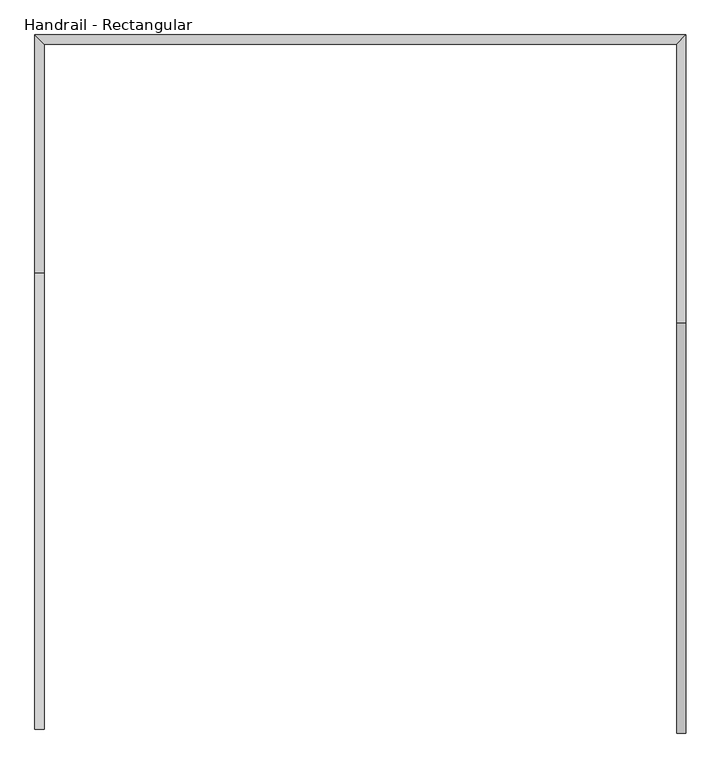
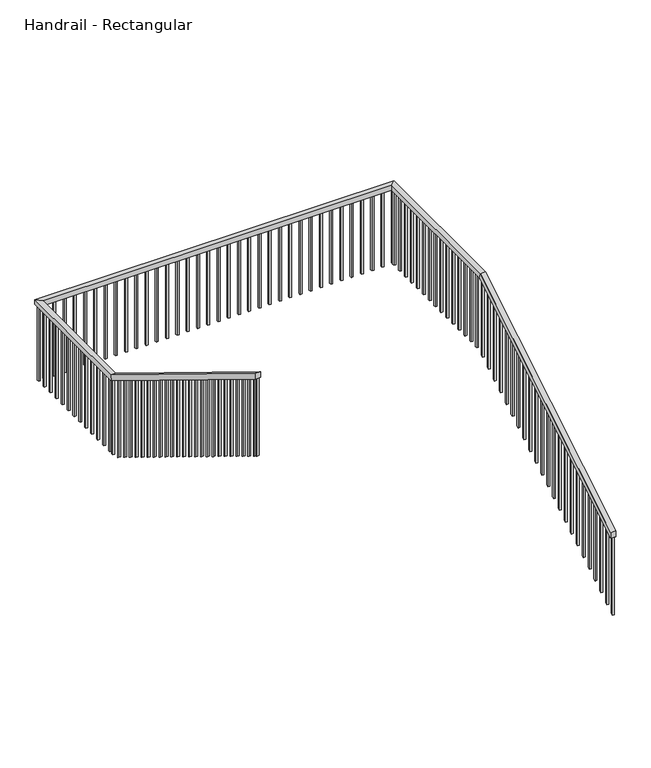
"""IFC4 building model written with IfcOpenShell, lengths in millimetres: railing geometry, Handrail - Rectangular."""

from ifc_helpers import new_model, si_unit, frame, origin, place, context, project, spatial, polyline, outline, extrude, faceted_brep, source, transform, mapped, element, save


def handrail_rectangular_93b09134(model_context):
    return source(origin(), model_context, "Body", "SolidModel", [
        faceted_brep([(1145.8499602, 6559.8588201, 4131.7333333), (1095.0499602, 6559.8588201, 4131.7333333), (1095.0499602, 6559.8588201, 4072.3318731), (1145.8499602, 6559.8588201, 4072.3318731), (1145.8499602, 8795.0588201, 5486.4), (1095.0499602, 8795.0588201, 5486.4), (1095.0499602, 8809.2512295, 5435.6), (1145.8499602, 8809.2512295, 5435.6), (1145.8499602, 10369.8588201, 5486.4), (1095.0499602, 10319.0588201, 5486.4), (1095.0499602, 10319.0588201, 5435.6), (1145.8499602, 10369.8588201, 5435.6), (-2410.1500398, 10369.8588201, 5486.4), (-2359.3500398, 10319.0588201, 5486.4), (-2359.3500398, 10319.0588201, 5435.6), (-2410.1500398, 10369.8588201, 5435.6), (-2410.1500398, 9071.4236171, 5486.4), (-2359.3500398, 9071.4236171, 5486.4), (-2359.3500398, 9057.0982111, 5435.6), (-2410.1500398, 9057.0982111, 5435.6), (-2410.1500398, 6581.1052413, 7012.2597197), (-2410.1500398, 6581.1052413, 6952.6823038), (-2359.3500398, 6581.1052413, 6952.6823038), (-2359.3500398, 6581.1052413, 7012.2597197)], [[[0, 1, 2, 3]], [[1, 0, 4, 5]], [[2, 1, 5, 6]], [[3, 2, 6, 7]], [[0, 3, 7, 4]], [[5, 4, 8, 9]], [[6, 5, 9, 10]], [[7, 6, 10, 11]], [[4, 7, 11, 8]], [[9, 8, 12, 13]], [[10, 9, 13, 14]], [[11, 10, 14, 15]], [[8, 11, 15, 12]], [[13, 12, 16, 17]], [[14, 13, 17, 18]], [[15, 14, 18, 19]], [[12, 15, 19, 16]], [[20, 21, 22, 23]], [[17, 16, 20, 23]], [[18, 17, 23, 22]], [[19, 18, 22, 21]], [[16, 19, 21, 20]]]),
        extrude(outline(polyline([(6623.4986171, 6926.7071735), (6642.5486171, 6915.0349199), (6642.5486171, 6103.6179715), (6623.4986171, 6115.2902251), (6623.4986171, 6926.7071735)])), frame((-2394.2750398, 0.0, 0.0), z_axis=(1.0, 0.0, 0.0), x_axis=(0.0, 1.0, 0.0)), (0.0, 0.0, 1.0), 19.05),
        extrude(outline(polyline([(6725.0986171, 6864.4551542), (6744.1486171, 6852.7829006), (6744.1486171, 6041.3659522), (6725.0986171, 6053.0382058), (6725.0986171, 6864.4551542)])), frame((-2394.2750398, 0.0, 0.0), z_axis=(1.0, 0.0, 0.0), x_axis=(0.0, 1.0, 0.0)), (0.0, 0.0, 1.0), 19.05),
        extrude(outline(polyline([(6826.6986171, 6802.2031349), (6845.7486171, 6790.5308813), (6845.7486171, 5979.1139329), (6826.6986171, 5990.7861866), (6826.6986171, 6802.2031349)])), frame((-2394.2750398, 0.0, 0.0), z_axis=(1.0, 0.0, 0.0), x_axis=(0.0, 1.0, 0.0)), (0.0, 0.0, 1.0), 19.05),
        extrude(outline(polyline([(6928.2986171, 6739.9511157), (6947.3486171, 6728.2788621), (6947.3486171, 5916.8619137), (6928.2986171, 5928.5341673), (6928.2986171, 6739.9511157)])), frame((-2394.2750398, 0.0, 0.0), z_axis=(1.0, 0.0, 0.0), x_axis=(0.0, 1.0, 0.0)), (0.0, 0.0, 1.0), 19.05),
        extrude(outline(polyline([(7029.8986171, 6677.6990964), (7048.9486171, 6666.0268428), (7048.9486171, 5854.6098944), (7029.8986171, 5866.282148), (7029.8986171, 6677.6990964)])), frame((-2394.2750398, 0.0, 0.0), z_axis=(1.0, 0.0, 0.0), x_axis=(0.0, 1.0, 0.0)), (0.0, 0.0, 1.0), 19.05),
        extrude(outline(polyline([(7131.4986171, 6615.4470771), (7150.5486171, 6603.7748235), (7150.5486171, 5792.3578751), (7131.4986171, 5804.0301287), (7131.4986171, 6615.4470771)])), frame((-2394.2750398, 0.0, 0.0), z_axis=(1.0, 0.0, 0.0), x_axis=(0.0, 1.0, 0.0)), (0.0, 0.0, 1.0), 19.05),
        extrude(outline(polyline([(7233.0986171, 6553.1950579), (7252.1486171, 6541.5228042), (7252.1486171, 5730.1058559), (7233.0986171, 5741.7781095), (7233.0986171, 6553.1950579)])), frame((-2394.2750398, 0.0, 0.0), z_axis=(1.0, 0.0, 0.0), x_axis=(0.0, 1.0, 0.0)), (0.0, 0.0, 1.0), 19.05),
        extrude(outline(polyline([(7334.6986171, 6490.9430386), (7353.7486171, 6479.270785), (7353.7486171, 5667.8538366), (7334.6986171, 5679.5260902), (7334.6986171, 6490.9430386)])), frame((-2394.2750398, 0.0, 0.0), z_axis=(1.0, 0.0, 0.0), x_axis=(0.0, 1.0, 0.0)), (0.0, 0.0, 1.0), 19.05),
        extrude(outline(polyline([(7436.2986171, 6428.6910193), (7455.3486171, 6417.0187657), (7455.3486171, 5605.6018173), (7436.2986171, 5617.2740709), (7436.2986171, 6428.6910193)])), frame((-2394.2750398, 0.0, 0.0), z_axis=(1.0, 0.0, 0.0), x_axis=(0.0, 1.0, 0.0)), (0.0, 0.0, 1.0), 19.05),
        extrude(outline(polyline([(7537.8986171, 6366.439), (7556.9486171, 6354.7667464), (7556.9486171, 5543.349798), (7537.8986171, 5555.0220517), (7537.8986171, 6366.439)])), frame((-2394.2750398, 0.0, 0.0), z_axis=(1.0, 0.0, 0.0), x_axis=(0.0, 1.0, 0.0)), (0.0, 0.0, 1.0), 19.05),
        extrude(outline(polyline([(7639.4986171, 6304.1869808), (7658.5486171, 6292.5147272), (7658.5486171, 5481.0977788), (7639.4986171, 5492.7700324), (7639.4986171, 6304.1869808)])), frame((-2394.2750398, 0.0, 0.0), z_axis=(1.0, 0.0, 0.0), x_axis=(0.0, 1.0, 0.0)), (0.0, 0.0, 1.0), 19.05),
        extrude(outline(polyline([(7741.0986171, 6241.9349615), (7760.1486171, 6230.2627079), (7760.1486171, 5418.8457595), (7741.0986171, 5430.5180131), (7741.0986171, 6241.9349615)])), frame((-2394.2750398, 0.0, 0.0), z_axis=(1.0, 0.0, 0.0), x_axis=(0.0, 1.0, 0.0)), (0.0, 0.0, 1.0), 19.05),
        extrude(outline(polyline([(7842.6986171, 6179.6829422), (7861.7486171, 6168.0106886), (7861.7486171, 5356.5937402), (7842.6986171, 5368.2659938), (7842.6986171, 6179.6829422)])), frame((-2394.2750398, 0.0, 0.0), z_axis=(1.0, 0.0, 0.0), x_axis=(0.0, 1.0, 0.0)), (0.0, 0.0, 1.0), 19.05),
        extrude(outline(polyline([(7944.2986171, 6117.430923), (7963.3486171, 6105.7586694), (7963.3486171, 5294.341721), (7944.2986171, 5306.0139746), (7944.2986171, 6117.430923)])), frame((-2394.2750398, 0.0, 0.0), z_axis=(1.0, 0.0, 0.0), x_axis=(0.0, 1.0, 0.0)), (0.0, 0.0, 1.0), 19.05),
        extrude(outline(polyline([(8045.8986171, 6055.1789037), (8064.9486171, 6043.5066501), (8064.9486171, 5232.0897017), (8045.8986171, 5243.7619553), (8045.8986171, 6055.1789037)])), frame((-2394.2750398, 0.0, 0.0), z_axis=(1.0, 0.0, 0.0), x_axis=(0.0, 1.0, 0.0)), (0.0, 0.0, 1.0), 19.05),
        extrude(outline(polyline([(8147.4986171, 5992.9268844), (8166.5486171, 5981.2546308), (8166.5486171, 5169.8376824), (8147.4986171, 5181.509936), (8147.4986171, 5992.9268844)])), frame((-2394.2750398, 0.0, 0.0), z_axis=(1.0, 0.0, 0.0), x_axis=(0.0, 1.0, 0.0)), (0.0, 0.0, 1.0), 19.05),
        extrude(outline(polyline([(8249.0986171, 5930.6748652), (8268.1486171, 5919.0026115), (8268.1486171, 5107.5856632), (8249.0986171, 5119.2579168), (8249.0986171, 5930.6748652)])), frame((-2394.2750398, 0.0, 0.0), z_axis=(1.0, 0.0, 0.0), x_axis=(0.0, 1.0, 0.0)), (0.0, 0.0, 1.0), 19.05),
        extrude(outline(polyline([(8350.6986171, 5868.4228459), (8369.7486171, 5856.7505923), (8369.7486171, 5045.3336439), (8350.6986171, 5057.0058975), (8350.6986171, 5868.4228459)])), frame((-2394.2750398, 0.0, 0.0), z_axis=(1.0, 0.0, 0.0), x_axis=(0.0, 1.0, 0.0)), (0.0, 0.0, 1.0), 19.05),
        extrude(outline(polyline([(8452.2986171, 5806.1708266), (8471.3486171, 5794.498573), (8471.3486171, 4983.0816246), (8452.2986171, 4994.7538782), (8452.2986171, 5806.1708266)])), frame((-2394.2750398, 0.0, 0.0), z_axis=(1.0, 0.0, 0.0), x_axis=(0.0, 1.0, 0.0)), (0.0, 0.0, 1.0), 19.05),
        extrude(outline(polyline([(8553.8986171, 5743.9188073), (8572.9486171, 5732.2465537), (8572.9486171, 4920.8296053), (8553.8986171, 4932.501859), (8553.8986171, 5743.9188073)])), frame((-2394.2750398, 0.0, 0.0), z_axis=(1.0, 0.0, 0.0), x_axis=(0.0, 1.0, 0.0)), (0.0, 0.0, 1.0), 19.05),
        extrude(outline(polyline([(8655.4986171, 5681.6667881), (8674.5486171, 5669.9945345), (8674.5486171, 4858.5775861), (8655.4986171, 4870.2498397), (8655.4986171, 5681.6667881)])), frame((-2394.2750398, 0.0, 0.0), z_axis=(1.0, 0.0, 0.0), x_axis=(0.0, 1.0, 0.0)), (0.0, 0.0, 1.0), 19.05),
        extrude(outline(polyline([(8757.0986171, 5619.4147688), (8776.1486171, 5607.7425152), (8776.1486171, 4796.3255668), (8757.0986171, 4807.9978204), (8757.0986171, 5619.4147688)])), frame((-2394.2750398, 0.0, 0.0), z_axis=(1.0, 0.0, 0.0), x_axis=(0.0, 1.0, 0.0)), (0.0, 0.0, 1.0), 19.05),
        extrude(outline(polyline([(8858.6986171, 5557.1627495), (8877.7486171, 5545.4904959), (8877.7486171, 4734.0735475), (8858.6986171, 4745.7458011), (8858.6986171, 5557.1627495)])), frame((-2394.2750398, 0.0, 0.0), z_axis=(1.0, 0.0, 0.0), x_axis=(0.0, 1.0, 0.0)), (0.0, 0.0, 1.0), 19.05),
        extrude(outline(polyline([(8960.2986171, 5494.9107303), (8979.3486171, 5483.2384766), (8979.3486171, 4671.8215283), (8960.2986171, 4683.4937819), (8960.2986171, 5494.9107303)])), frame((-2394.2750398, 0.0, 0.0), z_axis=(1.0, 0.0, 0.0), x_axis=(0.0, 1.0, 0.0)), (0.0, 0.0, 1.0), 19.05),
        extrude(outline(polyline([(-2394.2750398, 9134.7838201), (-2375.2250398, 9134.7838201), (-2375.2250398, 9115.7338201), (-2394.2750398, 9115.7338201), (-2394.2750398, 9134.7838201)])), frame((0.0, 0.0, 4648.2), z_axis=(0.0, 0.0, 1.0), x_axis=(1.0, 0.0, 0.0)), (0.0, 0.0, 1.0), 787.4),
        extrude(outline(polyline([(-2394.2750398, 9236.3838201), (-2375.2250398, 9236.3838201), (-2375.2250398, 9217.3338201), (-2394.2750398, 9217.3338201), (-2394.2750398, 9236.3838201)])), frame((0.0, 0.0, 4648.2), z_axis=(0.0, 0.0, 1.0), x_axis=(1.0, 0.0, 0.0)), (0.0, 0.0, 1.0), 787.4),
        extrude(outline(polyline([(-2394.2750398, 9337.9838201), (-2375.2250398, 9337.9838201), (-2375.2250398, 9318.9338201), (-2394.2750398, 9318.9338201), (-2394.2750398, 9337.9838201)])), frame((0.0, 0.0, 4648.2), z_axis=(0.0, 0.0, 1.0), x_axis=(1.0, 0.0, 0.0)), (0.0, 0.0, 1.0), 787.4),
        extrude(outline(polyline([(-2394.2750398, 9439.5838201), (-2375.2250398, 9439.5838201), (-2375.2250398, 9420.5338201), (-2394.2750398, 9420.5338201), (-2394.2750398, 9439.5838201)])), frame((0.0, 0.0, 4648.2), z_axis=(0.0, 0.0, 1.0), x_axis=(1.0, 0.0, 0.0)), (0.0, 0.0, 1.0), 787.4),
        extrude(outline(polyline([(-2394.2750398, 9541.1838201), (-2375.2250398, 9541.1838201), (-2375.2250398, 9522.1338201), (-2394.2750398, 9522.1338201), (-2394.2750398, 9541.1838201)])), frame((0.0, 0.0, 4648.2), z_axis=(0.0, 0.0, 1.0), x_axis=(1.0, 0.0, 0.0)), (0.0, 0.0, 1.0), 787.4),
        extrude(outline(polyline([(-2394.2750398, 9642.7838201), (-2375.2250398, 9642.7838201), (-2375.2250398, 9623.7338201), (-2394.2750398, 9623.7338201), (-2394.2750398, 9642.7838201)])), frame((0.0, 0.0, 4648.2), z_axis=(0.0, 0.0, 1.0), x_axis=(1.0, 0.0, 0.0)), (0.0, 0.0, 1.0), 787.4),
        extrude(outline(polyline([(-2394.2750398, 9744.3838201), (-2375.2250398, 9744.3838201), (-2375.2250398, 9725.3338201), (-2394.2750398, 9725.3338201), (-2394.2750398, 9744.3838201)])), frame((0.0, 0.0, 4648.2), z_axis=(0.0, 0.0, 1.0), x_axis=(1.0, 0.0, 0.0)), (0.0, 0.0, 1.0), 787.4),
        extrude(outline(polyline([(-2394.2750398, 9845.9838201), (-2375.2250398, 9845.9838201), (-2375.2250398, 9826.9338201), (-2394.2750398, 9826.9338201), (-2394.2750398, 9845.9838201)])), frame((0.0, 0.0, 4648.2), z_axis=(0.0, 0.0, 1.0), x_axis=(1.0, 0.0, 0.0)), (0.0, 0.0, 1.0), 787.4),
        extrude(outline(polyline([(-2394.2750398, 9947.5838201), (-2375.2250398, 9947.5838201), (-2375.2250398, 9928.5338201), (-2394.2750398, 9928.5338201), (-2394.2750398, 9947.5838201)])), frame((0.0, 0.0, 4648.2), z_axis=(0.0, 0.0, 1.0), x_axis=(1.0, 0.0, 0.0)), (0.0, 0.0, 1.0), 787.4),
        extrude(outline(polyline([(-2394.2750398, 10049.1838201), (-2375.2250398, 10049.1838201), (-2375.2250398, 10030.1338201), (-2394.2750398, 10030.1338201), (-2394.2750398, 10049.1838201)])), frame((0.0, 0.0, 4648.2), z_axis=(0.0, 0.0, 1.0), x_axis=(1.0, 0.0, 0.0)), (0.0, 0.0, 1.0), 787.4),
        extrude(outline(polyline([(-2394.2750398, 10150.7838201), (-2375.2250398, 10150.7838201), (-2375.2250398, 10131.7338201), (-2394.2750398, 10131.7338201), (-2394.2750398, 10150.7838201)])), frame((0.0, 0.0, 4648.2), z_axis=(0.0, 0.0, 1.0), x_axis=(1.0, 0.0, 0.0)), (0.0, 0.0, 1.0), 787.4),
        extrude(outline(polyline([(-2394.2750398, 10252.3838201), (-2375.2250398, 10252.3838201), (-2375.2250398, 10233.3338201), (-2394.2750398, 10233.3338201), (-2394.2750398, 10252.3838201)])), frame((0.0, 0.0, 4648.2), z_axis=(0.0, 0.0, 1.0), x_axis=(1.0, 0.0, 0.0)), (0.0, 0.0, 1.0), 787.4),
        extrude(outline(polyline([(-2324.4250398, 10353.9838201), (-2324.4250398, 10334.9338201), (-2343.4750398, 10334.9338201), (-2343.4750398, 10353.9838201), (-2324.4250398, 10353.9838201)])), frame((0.0, 0.0, 4648.2), z_axis=(0.0, 0.0, 1.0), x_axis=(1.0, 0.0, 0.0)), (0.0, 0.0, 1.0), 787.4),
        extrude(outline(polyline([(-2222.8250398, 10353.9838201), (-2222.8250398, 10334.9338201), (-2241.8750398, 10334.9338201), (-2241.8750398, 10353.9838201), (-2222.8250398, 10353.9838201)])), frame((0.0, 0.0, 4648.2), z_axis=(0.0, 0.0, 1.0), x_axis=(1.0, 0.0, 0.0)), (0.0, 0.0, 1.0), 787.4),
        extrude(outline(polyline([(-2121.2250398, 10353.9838201), (-2121.2250398, 10334.9338201), (-2140.2750398, 10334.9338201), (-2140.2750398, 10353.9838201), (-2121.2250398, 10353.9838201)])), frame((0.0, 0.0, 4648.2), z_axis=(0.0, 0.0, 1.0), x_axis=(1.0, 0.0, 0.0)), (0.0, 0.0, 1.0), 787.4),
        extrude(outline(polyline([(-2019.6250398, 10353.9838201), (-2019.6250398, 10334.9338201), (-2038.6750398, 10334.9338201), (-2038.6750398, 10353.9838201), (-2019.6250398, 10353.9838201)])), frame((0.0, 0.0, 4648.2), z_axis=(0.0, 0.0, 1.0), x_axis=(1.0, 0.0, 0.0)), (0.0, 0.0, 1.0), 787.4),
        extrude(outline(polyline([(-1918.0250398, 10353.9838201), (-1918.0250398, 10334.9338201), (-1937.0750398, 10334.9338201), (-1937.0750398, 10353.9838201), (-1918.0250398, 10353.9838201)])), frame((0.0, 0.0, 4648.2), z_axis=(0.0, 0.0, 1.0), x_axis=(1.0, 0.0, 0.0)), (0.0, 0.0, 1.0), 787.4),
        extrude(outline(polyline([(-1816.4250398, 10353.9838201), (-1816.4250398, 10334.9338201), (-1835.4750398, 10334.9338201), (-1835.4750398, 10353.9838201), (-1816.4250398, 10353.9838201)])), frame((0.0, 0.0, 4648.2), z_axis=(0.0, 0.0, 1.0), x_axis=(1.0, 0.0, 0.0)), (0.0, 0.0, 1.0), 787.4),
        extrude(outline(polyline([(-1714.8250398, 10353.9838201), (-1714.8250398, 10334.9338201), (-1733.8750398, 10334.9338201), (-1733.8750398, 10353.9838201), (-1714.8250398, 10353.9838201)])), frame((0.0, 0.0, 4648.2), z_axis=(0.0, 0.0, 1.0), x_axis=(1.0, 0.0, 0.0)), (0.0, 0.0, 1.0), 787.4),
        extrude(outline(polyline([(-1613.2250398, 10353.9838201), (-1613.2250398, 10334.9338201), (-1632.2750398, 10334.9338201), (-1632.2750398, 10353.9838201), (-1613.2250398, 10353.9838201)])), frame((0.0, 0.0, 4648.2), z_axis=(0.0, 0.0, 1.0), x_axis=(1.0, 0.0, 0.0)), (0.0, 0.0, 1.0), 787.4),
        extrude(outline(polyline([(-1511.6250398, 10353.9838201), (-1511.6250398, 10334.9338201), (-1530.6750398, 10334.9338201), (-1530.6750398, 10353.9838201), (-1511.6250398, 10353.9838201)])), frame((0.0, 0.0, 4648.2), z_axis=(0.0, 0.0, 1.0), x_axis=(1.0, 0.0, 0.0)), (0.0, 0.0, 1.0), 787.4),
        extrude(outline(polyline([(-1410.0250398, 10353.9838201), (-1410.0250398, 10334.9338201), (-1429.0750398, 10334.9338201), (-1429.0750398, 10353.9838201), (-1410.0250398, 10353.9838201)])), frame((0.0, 0.0, 4648.2), z_axis=(0.0, 0.0, 1.0), x_axis=(1.0, 0.0, 0.0)), (0.0, 0.0, 1.0), 787.4),
        extrude(outline(polyline([(-1308.4250398, 10353.9838201), (-1308.4250398, 10334.9338201), (-1327.4750398, 10334.9338201), (-1327.4750398, 10353.9838201), (-1308.4250398, 10353.9838201)])), frame((0.0, 0.0, 4648.2), z_axis=(0.0, 0.0, 1.0), x_axis=(1.0, 0.0, 0.0)), (0.0, 0.0, 1.0), 787.4),
        extrude(outline(polyline([(-1206.8250398, 10353.9838201), (-1206.8250398, 10334.9338201), (-1225.8750398, 10334.9338201), (-1225.8750398, 10353.9838201), (-1206.8250398, 10353.9838201)])), frame((0.0, 0.0, 4648.2), z_axis=(0.0, 0.0, 1.0), x_axis=(1.0, 0.0, 0.0)), (0.0, 0.0, 1.0), 787.4),
        extrude(outline(polyline([(-1105.2250398, 10353.9838201), (-1105.2250398, 10334.9338201), (-1124.2750398, 10334.9338201), (-1124.2750398, 10353.9838201), (-1105.2250398, 10353.9838201)])), frame((0.0, 0.0, 4648.2), z_axis=(0.0, 0.0, 1.0), x_axis=(1.0, 0.0, 0.0)), (0.0, 0.0, 1.0), 787.4),
        extrude(outline(polyline([(-1003.6250398, 10353.9838201), (-1003.6250398, 10334.9338201), (-1022.6750398, 10334.9338201), (-1022.6750398, 10353.9838201), (-1003.6250398, 10353.9838201)])), frame((0.0, 0.0, 4648.2), z_axis=(0.0, 0.0, 1.0), x_axis=(1.0, 0.0, 0.0)), (0.0, 0.0, 1.0), 787.4),
        extrude(outline(polyline([(-902.0250398, 10353.9838201), (-902.0250398, 10334.9338201), (-921.0750398, 10334.9338201), (-921.0750398, 10353.9838201), (-902.0250398, 10353.9838201)])), frame((0.0, 0.0, 4648.2), z_axis=(0.0, 0.0, 1.0), x_axis=(1.0, 0.0, 0.0)), (0.0, 0.0, 1.0), 787.4),
        extrude(outline(polyline([(-800.4250398, 10353.9838201), (-800.4250398, 10334.9338201), (-819.4750398, 10334.9338201), (-819.4750398, 10353.9838201), (-800.4250398, 10353.9838201)])), frame((0.0, 0.0, 4648.2), z_axis=(0.0, 0.0, 1.0), x_axis=(1.0, 0.0, 0.0)), (0.0, 0.0, 1.0), 787.4),
        extrude(outline(polyline([(-698.8250398, 10353.9838201), (-698.8250398, 10334.9338201), (-717.8750398, 10334.9338201), (-717.8750398, 10353.9838201), (-698.8250398, 10353.9838201)])), frame((0.0, 0.0, 4648.2), z_axis=(0.0, 0.0, 1.0), x_axis=(1.0, 0.0, 0.0)), (0.0, 0.0, 1.0), 787.4),
        extrude(outline(polyline([(-597.2250398, 10353.9838201), (-597.2250398, 10334.9338201), (-616.2750398, 10334.9338201), (-616.2750398, 10353.9838201), (-597.2250398, 10353.9838201)])), frame((0.0, 0.0, 4648.2), z_axis=(0.0, 0.0, 1.0), x_axis=(1.0, 0.0, 0.0)), (0.0, 0.0, 1.0), 787.4),
        extrude(outline(polyline([(-495.6250398, 10353.9838201), (-495.6250398, 10334.9338201), (-514.6750398, 10334.9338201), (-514.6750398, 10353.9838201), (-495.6250398, 10353.9838201)])), frame((0.0, 0.0, 4648.2), z_axis=(0.0, 0.0, 1.0), x_axis=(1.0, 0.0, 0.0)), (0.0, 0.0, 1.0), 787.4),
        extrude(outline(polyline([(-394.0250398, 10353.9838201), (-394.0250398, 10334.9338201), (-413.0750398, 10334.9338201), (-413.0750398, 10353.9838201), (-394.0250398, 10353.9838201)])), frame((0.0, 0.0, 4648.2), z_axis=(0.0, 0.0, 1.0), x_axis=(1.0, 0.0, 0.0)), (0.0, 0.0, 1.0), 787.4),
        extrude(outline(polyline([(-292.4250398, 10353.9838201), (-292.4250398, 10334.9338201), (-311.4750398, 10334.9338201), (-311.4750398, 10353.9838201), (-292.4250398, 10353.9838201)])), frame((0.0, 0.0, 4648.2), z_axis=(0.0, 0.0, 1.0), x_axis=(1.0, 0.0, 0.0)), (0.0, 0.0, 1.0), 787.4),
        extrude(outline(polyline([(-190.8250398, 10353.9838201), (-190.8250398, 10334.9338201), (-209.8750398, 10334.9338201), (-209.8750398, 10353.9838201), (-190.8250398, 10353.9838201)])), frame((0.0, 0.0, 4648.2), z_axis=(0.0, 0.0, 1.0), x_axis=(1.0, 0.0, 0.0)), (0.0, 0.0, 1.0), 787.4),
        extrude(outline(polyline([(-89.2250398, 10353.9838201), (-89.2250398, 10334.9338201), (-108.2750398, 10334.9338201), (-108.2750398, 10353.9838201), (-89.2250398, 10353.9838201)])), frame((0.0, 0.0, 4648.2), z_axis=(0.0, 0.0, 1.0), x_axis=(1.0, 0.0, 0.0)), (0.0, 0.0, 1.0), 787.4),
        extrude(outline(polyline([(12.3749602, 10353.9838201), (12.3749602, 10334.9338201), (-6.6750398, 10334.9338201), (-6.6750398, 10353.9838201), (12.3749602, 10353.9838201)])), frame((0.0, 0.0, 4648.2), z_axis=(0.0, 0.0, 1.0), x_axis=(1.0, 0.0, 0.0)), (0.0, 0.0, 1.0), 787.4),
        extrude(outline(polyline([(113.9749602, 10353.9838201), (113.9749602, 10334.9338201), (94.9249602, 10334.9338201), (94.9249602, 10353.9838201), (113.9749602, 10353.9838201)])), frame((0.0, 0.0, 4648.2), z_axis=(0.0, 0.0, 1.0), x_axis=(1.0, 0.0, 0.0)), (0.0, 0.0, 1.0), 787.4),
        extrude(outline(polyline([(215.5749602, 10353.9838201), (215.5749602, 10334.9338201), (196.5249602, 10334.9338201), (196.5249602, 10353.9838201), (215.5749602, 10353.9838201)])), frame((0.0, 0.0, 4648.2), z_axis=(0.0, 0.0, 1.0), x_axis=(1.0, 0.0, 0.0)), (0.0, 0.0, 1.0), 787.4),
        extrude(outline(polyline([(317.1749602, 10353.9838201), (317.1749602, 10334.9338201), (298.1249602, 10334.9338201), (298.1249602, 10353.9838201), (317.1749602, 10353.9838201)])), frame((0.0, 0.0, 4648.2), z_axis=(0.0, 0.0, 1.0), x_axis=(1.0, 0.0, 0.0)), (0.0, 0.0, 1.0), 787.4),
        extrude(outline(polyline([(418.7749602, 10353.9838201), (418.7749602, 10334.9338201), (399.7249602, 10334.9338201), (399.7249602, 10353.9838201), (418.7749602, 10353.9838201)])), frame((0.0, 0.0, 4648.2), z_axis=(0.0, 0.0, 1.0), x_axis=(1.0, 0.0, 0.0)), (0.0, 0.0, 1.0), 787.4),
        extrude(outline(polyline([(520.3749602, 10353.9838201), (520.3749602, 10334.9338201), (501.3249602, 10334.9338201), (501.3249602, 10353.9838201), (520.3749602, 10353.9838201)])), frame((0.0, 0.0, 4648.2), z_axis=(0.0, 0.0, 1.0), x_axis=(1.0, 0.0, 0.0)), (0.0, 0.0, 1.0), 787.4),
        extrude(outline(polyline([(621.9749602, 10353.9838201), (621.9749602, 10334.9338201), (602.9249602, 10334.9338201), (602.9249602, 10353.9838201), (621.9749602, 10353.9838201)])), frame((0.0, 0.0, 4648.2), z_axis=(0.0, 0.0, 1.0), x_axis=(1.0, 0.0, 0.0)), (0.0, 0.0, 1.0), 787.4),
        extrude(outline(polyline([(723.5749602, 10353.9838201), (723.5749602, 10334.9338201), (704.5249602, 10334.9338201), (704.5249602, 10353.9838201), (723.5749602, 10353.9838201)])), frame((0.0, 0.0, 4648.2), z_axis=(0.0, 0.0, 1.0), x_axis=(1.0, 0.0, 0.0)), (0.0, 0.0, 1.0), 787.4),
        extrude(outline(polyline([(825.1749602, 10353.9838201), (825.1749602, 10334.9338201), (806.1249602, 10334.9338201), (806.1249602, 10353.9838201), (825.1749602, 10353.9838201)])), frame((0.0, 0.0, 4648.2), z_axis=(0.0, 0.0, 1.0), x_axis=(1.0, 0.0, 0.0)), (0.0, 0.0, 1.0), 787.4),
        extrude(outline(polyline([(926.7749602, 10353.9838201), (926.7749602, 10334.9338201), (907.7249602, 10334.9338201), (907.7249602, 10353.9838201), (926.7749602, 10353.9838201)])), frame((0.0, 0.0, 4648.2), z_axis=(0.0, 0.0, 1.0), x_axis=(1.0, 0.0, 0.0)), (0.0, 0.0, 1.0), 787.4),
        extrude(outline(polyline([(1028.3749602, 10353.9838201), (1028.3749602, 10334.9338201), (1009.3249602, 10334.9338201), (1009.3249602, 10353.9838201), (1028.3749602, 10353.9838201)])), frame((0.0, 0.0, 4648.2), z_axis=(0.0, 0.0, 1.0), x_axis=(1.0, 0.0, 0.0)), (0.0, 0.0, 1.0), 787.4),
        extrude(outline(polyline([(1129.9749602, 10309.5338201), (1110.9249602, 10309.5338201), (1110.9249602, 10328.5838201), (1129.9749602, 10328.5838201), (1129.9749602, 10309.5338201)])), frame((0.0, 0.0, 4648.2), z_axis=(0.0, 0.0, 1.0), x_axis=(1.0, 0.0, 0.0)), (0.0, 0.0, 1.0), 787.4),
        extrude(outline(polyline([(1129.9749602, 10207.9338201), (1110.9249602, 10207.9338201), (1110.9249602, 10226.9838201), (1129.9749602, 10226.9838201), (1129.9749602, 10207.9338201)])), frame((0.0, 0.0, 4648.2), z_axis=(0.0, 0.0, 1.0), x_axis=(1.0, 0.0, 0.0)), (0.0, 0.0, 1.0), 787.4),
        extrude(outline(polyline([(1129.9749602, 10106.3338201), (1110.9249602, 10106.3338201), (1110.9249602, 10125.3838201), (1129.9749602, 10125.3838201), (1129.9749602, 10106.3338201)])), frame((0.0, 0.0, 4648.2), z_axis=(0.0, 0.0, 1.0), x_axis=(1.0, 0.0, 0.0)), (0.0, 0.0, 1.0), 787.4),
        extrude(outline(polyline([(1129.9749602, 10004.7338201), (1110.9249602, 10004.7338201), (1110.9249602, 10023.7838201), (1129.9749602, 10023.7838201), (1129.9749602, 10004.7338201)])), frame((0.0, 0.0, 4648.2), z_axis=(0.0, 0.0, 1.0), x_axis=(1.0, 0.0, 0.0)), (0.0, 0.0, 1.0), 787.4),
        extrude(outline(polyline([(1129.9749602, 9903.1338201), (1110.9249602, 9903.1338201), (1110.9249602, 9922.1838201), (1129.9749602, 9922.1838201), (1129.9749602, 9903.1338201)])), frame((0.0, 0.0, 4648.2), z_axis=(0.0, 0.0, 1.0), x_axis=(1.0, 0.0, 0.0)), (0.0, 0.0, 1.0), 787.4),
        extrude(outline(polyline([(1129.9749602, 9801.5338201), (1110.9249602, 9801.5338201), (1110.9249602, 9820.5838201), (1129.9749602, 9820.5838201), (1129.9749602, 9801.5338201)])), frame((0.0, 0.0, 4648.2), z_axis=(0.0, 0.0, 1.0), x_axis=(1.0, 0.0, 0.0)), (0.0, 0.0, 1.0), 787.4),
        extrude(outline(polyline([(1129.9749602, 9699.9338201), (1110.9249602, 9699.9338201), (1110.9249602, 9718.9838201), (1129.9749602, 9718.9838201), (1129.9749602, 9699.9338201)])), frame((0.0, 0.0, 4648.2), z_axis=(0.0, 0.0, 1.0), x_axis=(1.0, 0.0, 0.0)), (0.0, 0.0, 1.0), 787.4),
        extrude(outline(polyline([(1129.9749602, 9598.3338201), (1110.9249602, 9598.3338201), (1110.9249602, 9617.3838201), (1129.9749602, 9617.3838201), (1129.9749602, 9598.3338201)])), frame((0.0, 0.0, 4648.2), z_axis=(0.0, 0.0, 1.0), x_axis=(1.0, 0.0, 0.0)), (0.0, 0.0, 1.0), 787.4),
        extrude(outline(polyline([(1129.9749602, 9496.7338201), (1110.9249602, 9496.7338201), (1110.9249602, 9515.7838201), (1129.9749602, 9515.7838201), (1129.9749602, 9496.7338201)])), frame((0.0, 0.0, 4648.2), z_axis=(0.0, 0.0, 1.0), x_axis=(1.0, 0.0, 0.0)), (0.0, 0.0, 1.0), 787.4),
        extrude(outline(polyline([(1129.9749602, 9395.1338201), (1110.9249602, 9395.1338201), (1110.9249602, 9414.1838201), (1129.9749602, 9414.1838201), (1129.9749602, 9395.1338201)])), frame((0.0, 0.0, 4648.2), z_axis=(0.0, 0.0, 1.0), x_axis=(1.0, 0.0, 0.0)), (0.0, 0.0, 1.0), 787.4),
        extrude(outline(polyline([(1129.9749602, 9293.5338201), (1110.9249602, 9293.5338201), (1110.9249602, 9312.5838201), (1129.9749602, 9312.5838201), (1129.9749602, 9293.5338201)])), frame((0.0, 0.0, 4648.2), z_axis=(0.0, 0.0, 1.0), x_axis=(1.0, 0.0, 0.0)), (0.0, 0.0, 1.0), 787.4),
        extrude(outline(polyline([(1129.9749602, 9191.9338201), (1110.9249602, 9191.9338201), (1110.9249602, 9210.9838201), (1129.9749602, 9210.9838201), (1129.9749602, 9191.9338201)])), frame((0.0, 0.0, 4648.2), z_axis=(0.0, 0.0, 1.0), x_axis=(1.0, 0.0, 0.0)), (0.0, 0.0, 1.0), 787.4),
        extrude(outline(polyline([(1129.9749602, 9090.3338201), (1110.9249602, 9090.3338201), (1110.9249602, 9109.3838201), (1129.9749602, 9109.3838201), (1129.9749602, 9090.3338201)])), frame((0.0, 0.0, 4648.2), z_axis=(0.0, 0.0, 1.0), x_axis=(1.0, 0.0, 0.0)), (0.0, 0.0, 1.0), 787.4),
        extrude(outline(polyline([(1129.9749602, 8988.7338201), (1110.9249602, 8988.7338201), (1110.9249602, 9007.7838201), (1129.9749602, 9007.7838201), (1129.9749602, 8988.7338201)])), frame((0.0, 0.0, 4648.2), z_axis=(0.0, 0.0, 1.0), x_axis=(1.0, 0.0, 0.0)), (0.0, 0.0, 1.0), 787.4),
        extrude(outline(polyline([(1129.9749602, 8887.1338201), (1110.9249602, 8887.1338201), (1110.9249602, 8906.1838201), (1129.9749602, 8906.1838201), (1129.9749602, 8887.1338201)])), frame((0.0, 0.0, 4648.2), z_axis=(0.0, 0.0, 1.0), x_axis=(1.0, 0.0, 0.0)), (0.0, 0.0, 1.0), 787.4),
        extrude(outline(polyline([(8683.9338201, 5359.6500549), (8702.9838201, 5371.1955094), (8702.9838201, 4558.9781483), (8683.9338201, 4547.4326938), (8683.9338201, 5359.6500549)])), frame((1110.9249602, 0.0, 0.0), z_axis=(1.0, 0.0, 0.0), x_axis=(0.0, 1.0, 0.0)), (0.0, 0.0, 1.0), 19.05),
        extrude(outline(polyline([(8582.3338201, 5298.0742973), (8601.3838201, 5309.6197519), (8601.3838201, 4497.4023907), (8582.3338201, 4485.8569362), (8582.3338201, 5298.0742973)])), frame((1110.9249602, 0.0, 0.0), z_axis=(1.0, 0.0, 0.0), x_axis=(0.0, 1.0, 0.0)), (0.0, 0.0, 1.0), 19.05),
        extrude(outline(polyline([(8480.7338201, 5236.4985397), (8499.7838201, 5248.0439943), (8499.7838201, 4435.8266332), (8480.7338201, 4424.2811786), (8480.7338201, 5236.4985397)])), frame((1110.9249602, 0.0, 0.0), z_axis=(1.0, 0.0, 0.0), x_axis=(0.0, 1.0, 0.0)), (0.0, 0.0, 1.0), 19.05),
        extrude(outline(polyline([(8379.1338201, 5174.9227822), (8398.1838201, 5186.4682367), (8398.1838201, 4374.2508756), (8379.1338201, 4362.7054211), (8379.1338201, 5174.9227822)])), frame((1110.9249602, 0.0, 0.0), z_axis=(1.0, 0.0, 0.0), x_axis=(0.0, 1.0, 0.0)), (0.0, 0.0, 1.0), 19.05),
        extrude(outline(polyline([(8277.5338201, 5113.3470246), (8296.5838201, 5124.8924791), (8296.5838201, 4312.675118), (8277.5338201, 4301.1296635), (8277.5338201, 5113.3470246)])), frame((1110.9249602, 0.0, 0.0), z_axis=(1.0, 0.0, 0.0), x_axis=(0.0, 1.0, 0.0)), (0.0, 0.0, 1.0), 19.05),
        extrude(outline(polyline([(8175.9338201, 5051.771267), (8194.9838201, 5063.3167216), (8194.9838201, 4251.0993604), (8175.9338201, 4239.5539059), (8175.9338201, 5051.771267)])), frame((1110.9249602, 0.0, 0.0), z_axis=(1.0, 0.0, 0.0), x_axis=(0.0, 1.0, 0.0)), (0.0, 0.0, 1.0), 19.05),
        extrude(outline(polyline([(8074.3338201, 4990.1955094), (8093.3838201, 5001.740964), (8093.3838201, 4189.5236029), (8074.3338201, 4177.9781483), (8074.3338201, 4990.1955094)])), frame((1110.9249602, 0.0, 0.0), z_axis=(1.0, 0.0, 0.0), x_axis=(0.0, 1.0, 0.0)), (0.0, 0.0, 1.0), 19.05),
        extrude(outline(polyline([(7972.7338201, 4928.6197519), (7991.7838201, 4940.1652064), (7991.7838201, 4127.9478453), (7972.7338201, 4116.4023907), (7972.7338201, 4928.6197519)])), frame((1110.9249602, 0.0, 0.0), z_axis=(1.0, 0.0, 0.0), x_axis=(0.0, 1.0, 0.0)), (0.0, 0.0, 1.0), 19.05),
        extrude(outline(polyline([(7871.1338201, 4867.0439943), (7890.1838201, 4878.5894488), (7890.1838201, 4066.3720877), (7871.1338201, 4054.8266332), (7871.1338201, 4867.0439943)])), frame((1110.9249602, 0.0, 0.0), z_axis=(1.0, 0.0, 0.0), x_axis=(0.0, 1.0, 0.0)), (0.0, 0.0, 1.0), 19.05),
        extrude(outline(polyline([(7769.5338201, 4805.4682367), (7788.5838201, 4817.0136913), (7788.5838201, 4004.7963301), (7769.5338201, 3993.2508756), (7769.5338201, 4805.4682367)])), frame((1110.9249602, 0.0, 0.0), z_axis=(1.0, 0.0, 0.0), x_axis=(0.0, 1.0, 0.0)), (0.0, 0.0, 1.0), 19.05),
        extrude(outline(polyline([(7667.9338201, 4743.8924791), (7686.9838201, 4755.4379337), (7686.9838201, 3943.2205726), (7667.9338201, 3931.675118), (7667.9338201, 4743.8924791)])), frame((1110.9249602, 0.0, 0.0), z_axis=(1.0, 0.0, 0.0), x_axis=(0.0, 1.0, 0.0)), (0.0, 0.0, 1.0), 19.05),
        extrude(outline(polyline([(7566.3338201, 4682.3167216), (7585.3838201, 4693.8621761), (7585.3838201, 3881.644815), (7566.3338201, 3870.0993604), (7566.3338201, 4682.3167216)])), frame((1110.9249602, 0.0, 0.0), z_axis=(1.0, 0.0, 0.0), x_axis=(0.0, 1.0, 0.0)), (0.0, 0.0, 1.0), 19.05),
        extrude(outline(polyline([(7464.7338201, 4620.740964), (7483.7838201, 4632.2864185), (7483.7838201, 3820.0690574), (7464.7338201, 3808.5236029), (7464.7338201, 4620.740964)])), frame((1110.9249602, 0.0, 0.0), z_axis=(1.0, 0.0, 0.0), x_axis=(0.0, 1.0, 0.0)), (0.0, 0.0, 1.0), 19.05),
        extrude(outline(polyline([(7363.1338201, 4559.1652064), (7382.1838201, 4570.710661), (7382.1838201, 3758.4932998), (7363.1338201, 3746.9478453), (7363.1338201, 4559.1652064)])), frame((1110.9249602, 0.0, 0.0), z_axis=(1.0, 0.0, 0.0), x_axis=(0.0, 1.0, 0.0)), (0.0, 0.0, 1.0), 19.05),
        extrude(outline(polyline([(7261.5338201, 4497.5894488), (7280.5838201, 4509.1349034), (7280.5838201, 3696.9175423), (7261.5338201, 3685.3720877), (7261.5338201, 4497.5894488)])), frame((1110.9249602, 0.0, 0.0), z_axis=(1.0, 0.0, 0.0), x_axis=(0.0, 1.0, 0.0)), (0.0, 0.0, 1.0), 19.05),
        extrude(outline(polyline([(7159.9338201, 4436.0136913), (7178.9838201, 4447.5591458), (7178.9838201, 3635.3417847), (7159.9338201, 3623.7963301), (7159.9338201, 4436.0136913)])), frame((1110.9249602, 0.0, 0.0), z_axis=(1.0, 0.0, 0.0), x_axis=(0.0, 1.0, 0.0)), (0.0, 0.0, 1.0), 19.05),
        extrude(outline(polyline([(7058.3338201, 4374.4379337), (7077.3838201, 4385.9833882), (7077.3838201, 3573.7660271), (7058.3338201, 3562.2205726), (7058.3338201, 4374.4379337)])), frame((1110.9249602, 0.0, 0.0), z_axis=(1.0, 0.0, 0.0), x_axis=(0.0, 1.0, 0.0)), (0.0, 0.0, 1.0), 19.05),
        extrude(outline(polyline([(6956.7338201, 4312.8621761), (6975.7838201, 4324.4076307), (6975.7838201, 3512.1902695), (6956.7338201, 3500.644815), (6956.7338201, 4312.8621761)])), frame((1110.9249602, 0.0, 0.0), z_axis=(1.0, 0.0, 0.0), x_axis=(0.0, 1.0, 0.0)), (0.0, 0.0, 1.0), 19.05),
        extrude(outline(polyline([(6855.1338201, 4251.2864185), (6874.1838201, 4262.8318731), (6874.1838201, 3450.614512), (6855.1338201, 3439.0690574), (6855.1338201, 4251.2864185)])), frame((1110.9249602, 0.0, 0.0), z_axis=(1.0, 0.0, 0.0), x_axis=(0.0, 1.0, 0.0)), (0.0, 0.0, 1.0), 19.05),
        extrude(outline(polyline([(6753.5338201, 4189.710661), (6772.5838201, 4201.2561155), (6772.5838201, 3389.0387544), (6753.5338201, 3377.4932998), (6753.5338201, 4189.710661)])), frame((1110.9249602, 0.0, 0.0), z_axis=(1.0, 0.0, 0.0), x_axis=(0.0, 1.0, 0.0)), (0.0, 0.0, 1.0), 19.05),
        extrude(outline(polyline([(6651.9338201, 4128.1349034), (6670.9838201, 4139.6803579), (6670.9838201, 3327.4629968), (6651.9338201, 3315.9175423), (6651.9338201, 4128.1349034)])), frame((1110.9249602, 0.0, 0.0), z_axis=(1.0, 0.0, 0.0), x_axis=(0.0, 1.0, 0.0)), (0.0, 0.0, 1.0), 19.05),
        extrude(outline(polyline([(-2394.2750398, 9080.9486171), (-2375.2250398, 9080.9486171), (-2375.2250398, 9061.8986171), (-2394.2750398, 9061.8986171), (-2394.2750398, 9080.9486171)])), frame((0.0, 0.0, 4648.2), z_axis=(0.0, 0.0, 1.0), x_axis=(1.0, 0.0, 0.0)), (0.0, 0.0, 1.0), 787.4),
        extrude(outline(polyline([(-2375.2250398, 10353.9838201), (-2375.2250398, 10334.9338201), (-2394.2750398, 10334.9338201), (-2394.2750398, 10353.9838201), (-2375.2250398, 10353.9838201)])), frame((0.0, 0.0, 4648.2), z_axis=(0.0, 0.0, 1.0), x_axis=(1.0, 0.0, 0.0)), (0.0, 0.0, 1.0), 787.4),
        extrude(outline(polyline([(1129.9749602, 10334.9338201), (1110.9249602, 10334.9338201), (1110.9249602, 10353.9838201), (1129.9749602, 10353.9838201), (1129.9749602, 10334.9338201)])), frame((0.0, 0.0, 4648.2), z_axis=(0.0, 0.0, 1.0), x_axis=(1.0, 0.0, 0.0)), (0.0, 0.0, 1.0), 787.4),
        extrude(outline(polyline([(8785.5338201, 5421.2258125), (8804.5838201, 5432.771267), (8804.5838201, 4620.5539059), (8785.5338201, 4609.0084514), (8785.5338201, 5421.2258125)])), frame((1110.9249602, 0.0, 0.0), z_axis=(1.0, 0.0, 0.0), x_axis=(0.0, 1.0, 0.0)), (0.0, 0.0, 1.0), 19.05),
        extrude(outline(polyline([(6581.1052413, 6952.6823038), (6600.1552413, 6941.0100502), (6600.1552413, 6129.5931018), (6581.1052413, 6141.2653555), (6581.1052413, 6952.6823038)])), frame((-2394.2750398, 0.0, 0.0), z_axis=(1.0, 0.0, 0.0), x_axis=(0.0, 1.0, 0.0)), (0.0, 0.0, 1.0), 19.05),
        extrude(outline(polyline([(6559.8588201, 4072.3318731), (6578.9088201, 4083.8773276), (6578.9088201, 3271.6599665), (6559.8588201, 3260.114512), (6559.8588201, 4072.3318731)])), frame((1110.9249602, 0.0, 0.0), z_axis=(1.0, 0.0, 0.0), x_axis=(0.0, 1.0, 0.0)), (0.0, 0.0, 1.0), 19.05),
    ])


if __name__ == "__main__":
    model = new_model("IFC4")
    model_context = context("Model", 3, world=origin())
    ifc_project = project(units=[si_unit("LENGTHUNIT", "METRE", prefix="MILLI")], contexts=[model_context])
    site = spatial("IfcSite", under=ifc_project)
    building = spatial("IfcBuilding", under=site)
    placement = place(None, origin())
    handrail_rectangular_shape = handrail_rectangular_93b09134(model_context)
    element("IfcRailing", 1, ObjectType="Handrail - Rectangular", at=placement, inside=building, context=model_context, shape_type="MappedRepresentation", body=[
        mapped(handrail_rectangular_shape, transform((0.0, 0.0, 0.0), x_axis=(1.0, 0.0, 0.0), y_axis=(0.0, 1.0, 0.0), z_axis=(0.0, 0.0, 1.0))),
    ])
    save(model, "model.ifc")
